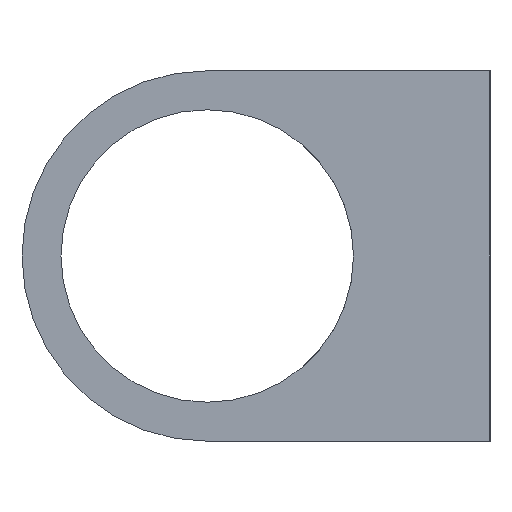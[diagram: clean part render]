
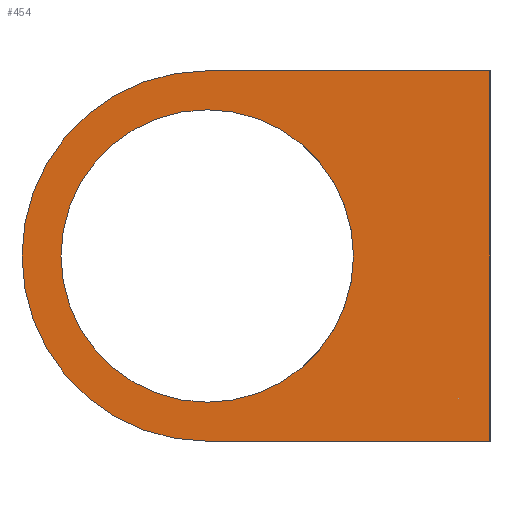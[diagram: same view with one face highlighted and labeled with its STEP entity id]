
A CAD part, left-side view. The second image highlights one B-rep face of the part: STEP entity #454.
In plain terms, the highlighted planar face has unit normal (-1, 0, 0).
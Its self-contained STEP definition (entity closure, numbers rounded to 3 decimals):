
#2 = PLANE ( 'NONE',  #9 ) ;
#4 = CARTESIAN_POINT ( 'NONE',  ( -5., 0., -1.5 ) ) ;
#9 = AXIS2_PLACEMENT_3D ( 'NONE', #461, #58, #457 ) ;
#20 = CARTESIAN_POINT ( 'NONE',  ( -5., 0., 1.5 ) ) ;
#23 = CARTESIAN_POINT ( 'NONE',  ( -5., 0., 1.9 ) ) ;
#29 = CARTESIAN_POINT ( 'NONE',  ( -5., -2.9, 1.9 ) ) ;
#30 = CARTESIAN_POINT ( 'NONE',  ( -5., -2.9, -1.9 ) ) ;
#36 = DIRECTION ( 'NONE',  ( 0., 1., 0. ) ) ;
#41 = CARTESIAN_POINT ( 'NONE',  ( -5., 0., -1.9 ) ) ;
#43 = CARTESIAN_POINT ( 'NONE',  ( -5., -2.9, -1.9 ) ) ;
#45 = EDGE_CURVE ( 'NONE', #368, #393, #284, .T. ) ;
#50 = EDGE_CURVE ( 'NONE', #435, #408, #273, .T. ) ;
#52 = DIRECTION ( 'NONE',  ( 0., 0., -1. ) ) ;
#55 = DIRECTION ( 'NONE',  ( 1., 0., 0. ) ) ;
#57 = CARTESIAN_POINT ( 'NONE',  ( -5., 0., 0. ) ) ;
#58 = DIRECTION ( 'NONE',  ( 1., 0., 0. ) ) ;
#73 = EDGE_CURVE ( 'NONE', #408, #435, #264, .T. ) ;
#100 = AXIS2_PLACEMENT_3D ( 'NONE', #57, #55, #52 ) ;
#119 = AXIS2_PLACEMENT_3D ( 'NONE', #475, #477, #478 ) ;
#139 = CARTESIAN_POINT ( 'NONE',  ( -5., -2.9, 1.9 ) ) ;
#148 = AXIS2_PLACEMENT_3D ( 'NONE', #446, #447, #449 ) ;
#149 = DIRECTION ( 'NONE',  ( 0., 0., -1. ) ) ;
#180 = FACE_OUTER_BOUND ( 'NONE', #321, .T. ) ;
#185 = FACE_BOUND ( 'NONE', #325, .T. ) ;
#187 = VECTOR ( 'NONE', #36, 1000. ) ;
#202 = LINE ( 'NONE', #43, #187 ) ;
#203 = CIRCLE ( 'NONE', #100, 1.9 ) ;
#210 = VECTOR ( 'NONE', #149, 1000. ) ;
#215 = EDGE_CURVE ( 'NONE', #393, #360, #222, .T. ) ;
#222 = LINE ( 'NONE', #139, #210 ) ;
#264 = CIRCLE ( 'NONE', #119, 1.5 ) ;
#269 = VECTOR ( 'NONE', #443, 1000. ) ;
#273 = CIRCLE ( 'NONE', #148, 1.5 ) ;
#284 = LINE ( 'NONE', #426, #269 ) ;
#301 = EDGE_CURVE ( 'NONE', #351, #368, #203, .T. ) ;
#315 = ORIENTED_EDGE ( 'NONE', *, *, #45, .F. ) ;
#321 = EDGE_LOOP ( 'NONE', ( #483, #356, #364, #315 ) ) ;
#325 = EDGE_LOOP ( 'NONE', ( #482, #412 ) ) ;
#326 = EDGE_CURVE ( 'NONE', #360, #351, #202, .T. ) ;
#351 = VERTEX_POINT ( 'NONE', #41 ) ;
#356 = ORIENTED_EDGE ( 'NONE', *, *, #326, .F. ) ;
#360 = VERTEX_POINT ( 'NONE', #30 ) ;
#364 = ORIENTED_EDGE ( 'NONE', *, *, #215, .F. ) ;
#368 = VERTEX_POINT ( 'NONE', #23 ) ;
#393 = VERTEX_POINT ( 'NONE', #29 ) ;
#408 = VERTEX_POINT ( 'NONE', #20 ) ;
#412 = ORIENTED_EDGE ( 'NONE', *, *, #73, .T. ) ;
#426 = CARTESIAN_POINT ( 'NONE',  ( -5., 0., 1.9 ) ) ;
#435 = VERTEX_POINT ( 'NONE', #4 ) ;
#443 = DIRECTION ( 'NONE',  ( 0., -1., 0. ) ) ;
#446 = CARTESIAN_POINT ( 'NONE',  ( -5., 0., 0. ) ) ;
#447 = DIRECTION ( 'NONE',  ( 1., 0., 0. ) ) ;
#449 = DIRECTION ( 'NONE',  ( 0., 0., -1. ) ) ;
#454 = ADVANCED_FACE ( 'NONE', ( #185, #180 ), #2, .F. ) ;
#457 = DIRECTION ( 'NONE',  ( 0., 0., -1. ) ) ;
#461 = CARTESIAN_POINT ( 'NONE',  ( -5., 0., 0. ) ) ;
#475 = CARTESIAN_POINT ( 'NONE',  ( -5., 0., 0. ) ) ;
#477 = DIRECTION ( 'NONE',  ( 1., 0., 0. ) ) ;
#478 = DIRECTION ( 'NONE',  ( 0., 0., -1. ) ) ;
#482 = ORIENTED_EDGE ( 'NONE', *, *, #50, .T. ) ;
#483 = ORIENTED_EDGE ( 'NONE', *, *, #301, .F. ) ;
